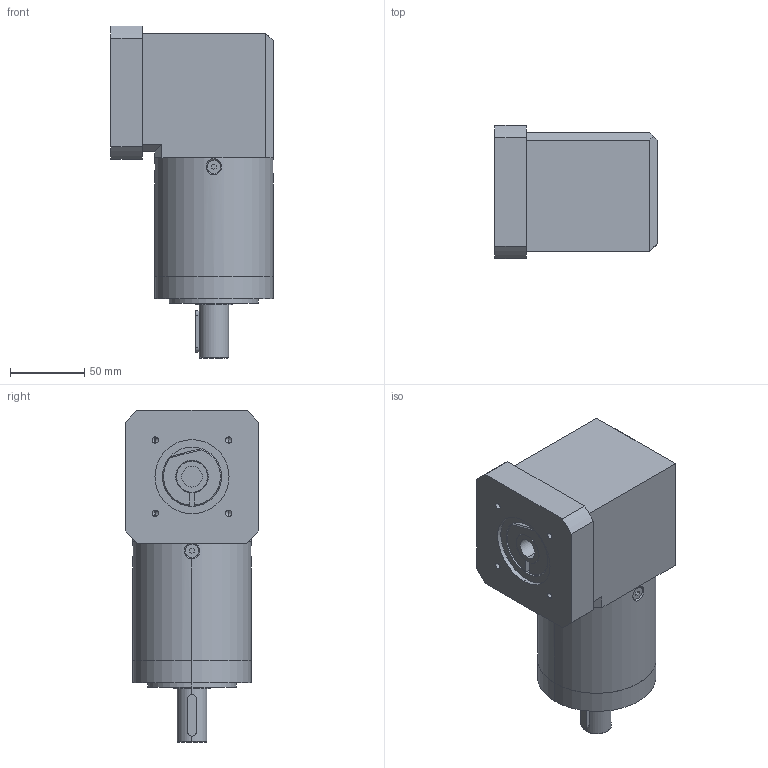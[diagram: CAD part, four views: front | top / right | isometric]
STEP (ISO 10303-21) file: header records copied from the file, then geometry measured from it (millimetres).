
FILE_DESCRIPTION (( 'STEP AP214' ), '1' );
FILE_NAME ('GBPNR-0803-CS-100-EMJ60-551.STEP', '2012-10-01T16:03:29', ( '' ), ( '' ), 'SwSTEP 2.0', 'SolidWorks 2012', '' );
FILE_SCHEMA (( 'AUTOMOTIVE_DESIGN' ));
Length unit declared in the file: millimetre
Products named in the file (1): GBPNR-0803-CS-100-EMJ60-551
Bounding box: 109.5 x 90 x 224 mm (x, y, z)
Surface area: 87571 mm2 (no closed solid volume)
Topology: 0 solids, 11 shells, 201 faces, 535 edges, 357 vertices
Faces by surface type: plane 93, cylinder 66, cone 42
Entity records: 9262 total; most frequent: CARTESIAN_POINT 2091, ORIENTED_EDGE 1016, DIRECTION 975, EDGE_CURVE 511, AXIS2_PLACEMENT_3D 362, VERTEX_POINT 357, LINE 251, VECTOR 251
